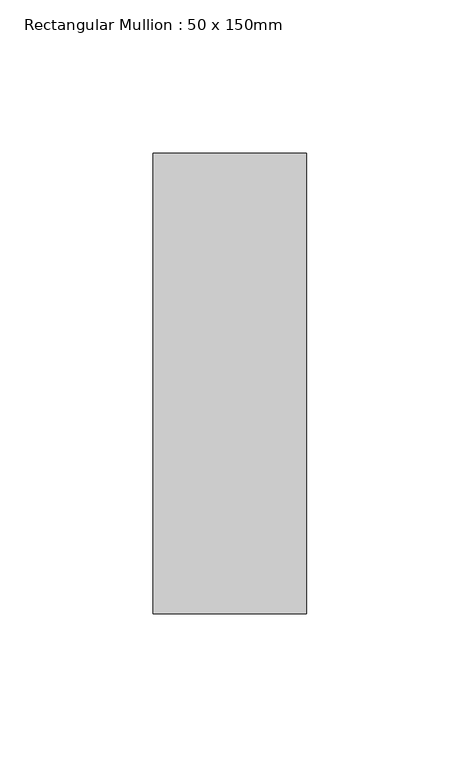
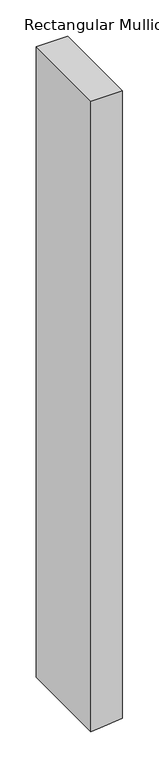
"""IFC4 building model written with IfcOpenShell, lengths in millimetres: member geometry, Rectangular Mullion : 50 x 150mm."""

from ifc_helpers import new_model, si_unit, frame, origin, place, context, project, spatial, polyline, outline, extrude, source, transform, mapped, element, save


def rectangular_mullion_50_x_150mm_6831d860(model_context):
    return source(origin(), model_context, "Body", "SweptSolid", [
        extrude(outline(polyline([(0.0, 25.0), (0.0, -25.0), (-1058.2825537, -25.0), (-1056.2717866, -5.0022633), (-1053.255067, 25.0), (0.0, 25.0)])), frame((0.0, -75.0, 0.0), z_axis=(0.0, 1.0, 0.0), x_axis=(0.0, 0.0, 1.0)), (0.0, 0.0, 1.0), 150.0),
    ])


if __name__ == "__main__":
    model = new_model("IFC4")
    model_context = context("Model", 3, world=origin())
    ifc_project = project(units=[si_unit("LENGTHUNIT", "METRE", prefix="MILLI")], contexts=[model_context])
    site = spatial("IfcSite", under=ifc_project)
    building = spatial("IfcBuilding", under=site)
    placement = place(None, origin())
    rectangular_mullion_50_x_150mm_shape = rectangular_mullion_50_x_150mm_6831d860(model_context)
    element("IfcMember", 1, ObjectType="Rectangular Mullion : 50 x 150mm", at=placement, inside=building, context=model_context, shape_type="MappedRepresentation", body=[
        mapped(rectangular_mullion_50_x_150mm_shape, transform((0.0, 0.0, 0.0), x_axis=(1.0, 0.0, 0.0), y_axis=(0.0, 1.0, 0.0), z_axis=(0.0, 0.0, 1.0))),
    ])
    save(model, "model.ifc")
